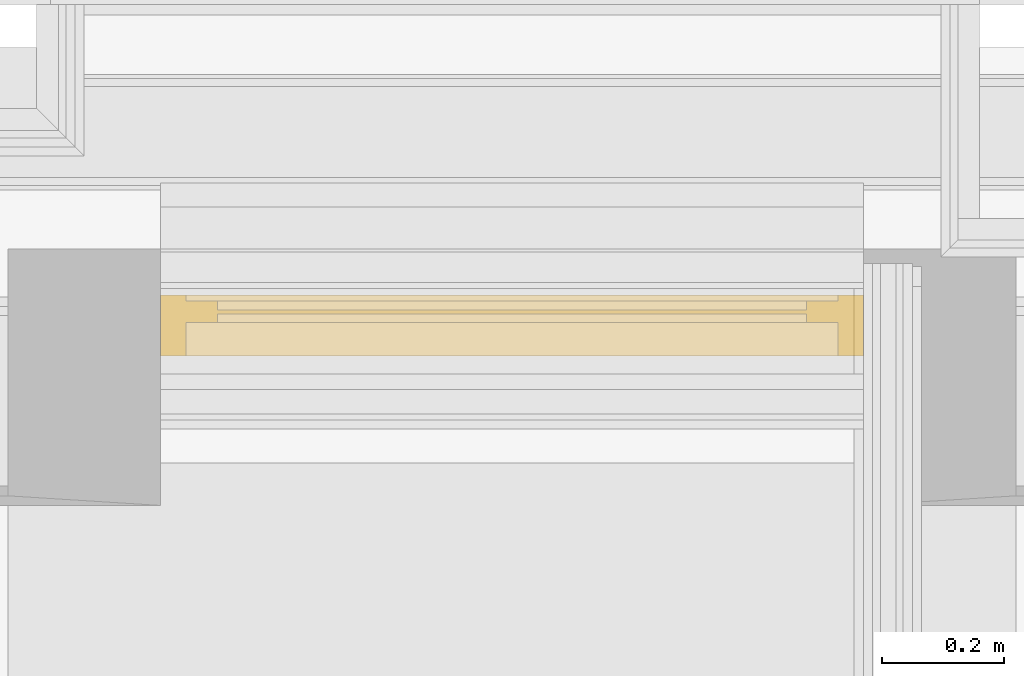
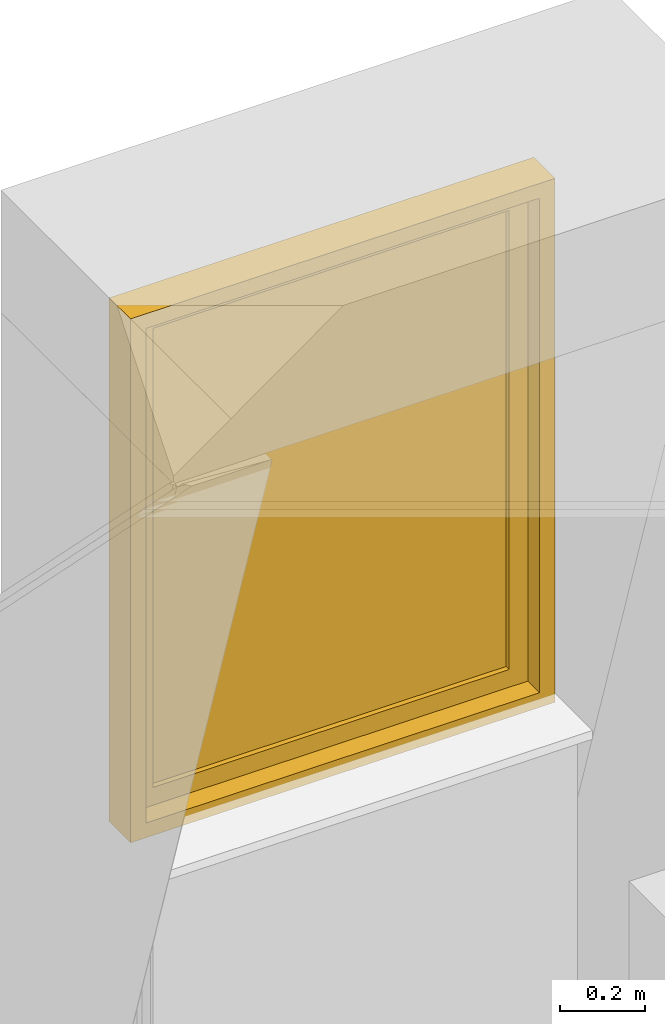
# One storey, part 134 of 169: 1 window.
"""IFC2X3 building model written with IfcOpenShell, lengths in metres."""

import ifcopenshell
import ifcopenshell.guid

model = None  # the IFC model being written
_history = None  # IfcOwnerHistory: only IFC2X3 demands one
_inside = {}  # id of a spatial element -> (the spatial element, [elements in it])
_under = {}  # id of a project, library or spatial element -> (it, [spatial elements below it])
_declared = {}  # id of a project -> (the project, [libraries it declares])
_typed = {}  # id of a type object -> (the type object, [elements of that type])
_made_of = {}  # id of a material, layer set ... -> (it, [elements and type objects made of it])


def new_model(schema):
    """Start an empty IFC model of exactly this schema.

    Asked for "IFC4X3", IfcOpenShell would pick the latest addendum, in which some entities
    have other attributes; the version numbers below select the first issue.
    IFC2X3 requires an IfcOwnerHistory on every rooted entity: one is made here for all.
    """
    global model, _history
    if schema == "IFC4X3":
        model = ifcopenshell.file(schema_version=(4, 3, 0, 0))
    else:
        model = ifcopenshell.file(schema=schema)
    _inside.clear()
    _under.clear()
    _declared.clear()
    _typed.clear()
    _made_of.clear()
    _history = None
    if model.schema == "IFC2X3":
        org = make("IfcOrganization", Name="unknown")
        user = make(
            "IfcPersonAndOrganization",
            ThePerson=make("IfcPerson", FamilyName="unknown"),
            TheOrganization=org,
        )
        app = make(
            "IfcApplication",
            ApplicationDeveloper=org,
            Version="unknown",
            ApplicationFullName="unknown",
            ApplicationIdentifier="unknown",
        )
        _history = make(
            "IfcOwnerHistory",
            OwningUser=user,
            OwningApplication=app,
            ChangeAction="ADDED",
            CreationDate=0,
        )
    return model


def make(cls, **values):
    """One entity of the class cls with the attributes given. An attribute that is None is left unset."""
    return model.create_entity(
        cls, **{name: value for name, value in values.items() if value is not None}
    )


def entity(cls, *values):
    """Any entity or typed value of the class cls, its attributes in the order of the schema. None: left unset."""
    e = model.create_entity(cls)
    for i, value in enumerate(values):
        if value is not None:
            e[i] = value
    return e


def rooted(cls, **values):
    """An entity with a GlobalId (a new one), such as an element, a storey or a relation."""
    return make(cls, GlobalId=ifcopenshell.guid.new(), OwnerHistory=_history, **values)


def si_unit(unit_type, name, prefix=None):
    """IfcSIUnit, for example si_unit("LENGTHUNIT", "METRE", prefix="MILLI")."""
    return make("IfcSIUnit", UnitType=unit_type, Prefix=prefix, Name=name)


def converted_unit(unit_type, name, factor, base, dimensions=None, offset=None):
    """IfcConversionBasedUnit, such as the inch: factor (a typed value) times the base unit."""
    return make(
        "IfcConversionBasedUnit"
        if offset is None
        else "IfcConversionBasedUnitWithOffset",
        ConversionOffset=offset,
        Dimensions=None
        if dimensions is None
        else entity("IfcDimensionalExponents", *dimensions),
        UnitType=unit_type,
        Name=name,
        ConversionFactor=make(
            "IfcMeasureWithUnit", ValueComponent=factor, UnitComponent=base
        ),
    )


def derived_unit(unit_type, elements):
    """IfcDerivedUnit: a product of units, each with its exponent."""
    return make(
        "IfcDerivedUnit",
        Elements=[
            make("IfcDerivedUnitElement", Unit=unit, Exponent=power)
            for unit, power in elements
        ],
        UnitType=unit_type,
    )


def money_unit(currency):
    """IfcMonetaryUnit."""
    return make("IfcMonetaryUnit", Currency=currency)


def assignment(units):
    """IfcUnitAssignment: the units of a project."""
    return None if units is None else make("IfcUnitAssignment", Units=units)


def point(xyz):
    """IfcCartesianPoint."""
    return None if xyz is None else make("IfcCartesianPoint", Coordinates=xyz)


def direction(xyz):
    """IfcDirection."""
    return None if xyz is None else make("IfcDirection", DirectionRatios=xyz)


def frame(location, z_axis=None, x_axis=None):
    """IfcAxis2Placement3D, a coordinate frame: its origin and axes. An axis left out is left unset."""
    return make(
        "IfcAxis2Placement3D",
        Location=point(location),
        Axis=direction(z_axis),
        RefDirection=direction(x_axis),
    )


def origin_with_axes():
    """The frame at (0, 0, 0) with the z axis (0, 0, 1) and the x axis (1, 0, 0) written out."""
    return frame((0.0, 0.0, 0.0), z_axis=(0.0, 0.0, 1.0), x_axis=(1.0, 0.0, 0.0))


def place(relative_to, where):
    """IfcLocalPlacement: puts the frame where relative to a parent placement (None: the world)."""
    return make(
        "IfcLocalPlacement", PlacementRelTo=relative_to, RelativePlacement=where
    )


def context(
    kind, dimensions, precision=None, world=None, true_north=None, identifier=None
):
    """IfcGeometricRepresentationContext, for example the 3D "Model" context."""
    return make(
        "IfcGeometricRepresentationContext",
        ContextIdentifier=identifier,
        ContextType=kind,
        CoordinateSpaceDimension=dimensions,
        Precision=precision,
        WorldCoordinateSystem=world,
        TrueNorth=true_north,
    )


def subcontext(parent, identifier, kind, view, scale=None):
    """IfcGeometricRepresentationSubContext, for example "Body" below "Model"."""
    return make(
        "IfcGeometricRepresentationSubContext",
        ContextIdentifier=identifier,
        ContextType=kind,
        ParentContext=parent,
        TargetScale=scale,
        TargetView=view,
    )


def project(units=None, contexts=None):
    """IfcProject with its units and contexts."""
    return rooted(
        "IfcProject",
        Name="project",
        RepresentationContexts=contexts,
        UnitsInContext=assignment(units),
    )


def spatial(cls, under=None, at=None, **own):
    """A site, building, storey or space (cls), placed at a placement, below another one or the project."""
    s = rooted(cls, ObjectPlacement=at, **own)
    if under is not None:
        _under.setdefault(under.id(), (under, []))[1].append(s)
    return s


def faces_of(points, faces, orient=None, outer=None):
    """IfcFace entities. A face is a list of loops; a loop is a list of indices into points, from 0.

    orient and outer hold one flag for each loop. By default every Orientation is true, the
    first loop of a face is its IfcFaceOuterBound and the others are IfcFaceBound.
    """
    made = []
    for i, loops in enumerate(faces):
        bounds = []
        for j, loop in enumerate(loops):
            is_outer = j == 0 if outer is None else outer[i][j]
            bounds.append(
                make(
                    "IfcFaceOuterBound" if is_outer else "IfcFaceBound",
                    Bound=make("IfcPolyLoop", Polygon=[points[k] for k in loop]),
                    Orientation=True if orient is None else orient[i][j],
                )
            )
        made.append(make("IfcFace", Bounds=bounds))
    return made


def faceted_brep(points, faces, orient=None, outer=None, voids=None):
    """IfcFacetedBrep: a solid bounded by flat faces; with voids (closed shells), ...WithVoids."""
    shared = [point(p) for p in points]
    hull = make("IfcClosedShell", CfsFaces=faces_of(shared, faces, orient, outer))
    if voids is None:
        return make("IfcFacetedBrep", Outer=hull)
    return make(
        "IfcFacetedBrepWithVoids",
        Outer=hull,
        Voids=[
            make(cls, CfsFaces=faces_of(shared, fs, o, b)) for cls, fs, o, b in voids
        ],
    )


def shape(context_of_items, identifier, shape_type, items):
    """IfcShapeRepresentation: the items that make up one representation, for example the "Body"."""
    return make(
        "IfcShapeRepresentation",
        ContextOfItems=context_of_items,
        RepresentationIdentifier=identifier,
        RepresentationType=shape_type,
        Items=items,
    )


def material(Name=None, Category=None):
    """IfcMaterial."""
    return make("IfcMaterial", Name=Name, Category=Category)


def made_of(thing, what):
    """Note that an element or type object is made of a material, layer set ...; save() writes the relation."""
    if what is not None:
        _made_of.setdefault(what.id(), (what, []))[1].append(thing)
    return thing


def type_object(cls, material=None, **own):
    """A type object (cls), such as IfcWallType, which elements share."""
    return made_of(rooted(cls, **own), material)


def element(
    cls,
    number,
    at=None,
    inside=None,
    cuts=None,
    type_object=None,
    material=None,
    context=None,
    identifier="Body",
    shape_type=None,
    held_by="IfcProductDefinitionShape",
    body=None,
    shapes=None,
    **own,
):
    """One element of the class cls, such as IfcWall. Its Tag is "e" and its number.

    at: its placement. inside: the storey or other place that contains it. cuts: it is an
    opening in that element (IfcRelVoidsElement). A single representation is given by context,
    identifier, shape_type and body (its items); several are given by shapes. held_by: the class
    of the entity that holds the representations. save() writes the other relations.
    """
    e = rooted(cls, Tag="e%d" % number, ObjectPlacement=at, **own)
    if body is not None:
        shapes = [shape(context, identifier, shape_type, body)]
    if shapes is not None:
        e.Representation = make(held_by, Representations=shapes)
    if inside is not None:
        _inside.setdefault(inside.id(), (inside, []))[1].append(e)
    if cuts is not None:
        rooted(
            "IfcRelVoidsElement", RelatingBuildingElement=cuts, RelatedOpeningElement=e
        )
    if type_object is not None:
        _typed.setdefault(type_object.id(), (type_object, []))[1].append(e)
    return made_of(e, material)


def aggregate(whole, parts):
    """IfcRelAggregates: a whole, such as a stair, and the parts it consists of."""
    return rooted("IfcRelAggregates", RelatingObject=whole, RelatedObjects=parts)


def save(model, path):
    """Write the relations noted so far, then the file.

    IfcRelAggregates (storeys below a building ...), IfcRelContainedInSpatialStructure (elements
    in a storey), IfcRelDefinesByType, IfcRelAssociatesMaterial and IfcRelDeclares: one each for
    every whole, place, type object, material and project.
    """
    for whole, parts in _under.values():
        aggregate(whole, parts)
    for where, things in _inside.values():
        rooted(
            "IfcRelContainedInSpatialStructure",
            RelatedElements=things,
            RelatingStructure=where,
        )
    for kind, things in _typed.values():
        rooted("IfcRelDefinesByType", RelatedObjects=things, RelatingType=kind)
    for what, things in _made_of.values():
        rooted("IfcRelAssociatesMaterial", RelatedObjects=things, RelatingMaterial=what)
    for by, libraries in _declared.values():
        rooted("IfcRelDeclares", RelatingContext=by, RelatedDefinitions=libraries)
    model.write(path)


model = new_model("IFC2X3")

# Units and contexts
model_context = context("Model", 3, precision=1e-05, world=origin_with_axes(), true_north=direction((0.0, 1.0)))
body_context = subcontext(model_context, "Body", "Model", "MODEL_VIEW", scale=1.0)
ifc_project = project(units=[si_unit("LENGTHUNIT", "METRE"), si_unit("AREAUNIT", "SQUARE_METRE"), si_unit("VOLUMEUNIT", "CUBIC_METRE"), si_unit("ABSORBEDDOSEUNIT", "GRAY"), si_unit("AMOUNTOFSUBSTANCEUNIT", "MOLE"), si_unit("DOSEEQUIVALENTUNIT", "SIEVERT"), si_unit("ELECTRICCAPACITANCEUNIT", "FARAD"), si_unit("ELECTRICCHARGEUNIT", "COULOMB"), si_unit("ELECTRICCONDUCTANCEUNIT", "SIEMENS"), si_unit("ELECTRICCURRENTUNIT", "AMPERE"), si_unit("ELECTRICRESISTANCEUNIT", "OHM"), si_unit("ELECTRICVOLTAGEUNIT", "VOLT"), si_unit("ENERGYUNIT", "JOULE"), si_unit("FORCEUNIT", "NEWTON"), si_unit("FREQUENCYUNIT", "HERTZ"), si_unit("ILLUMINANCEUNIT", "LUX"), si_unit("INDUCTANCEUNIT", "HENRY"), si_unit("LUMINOUSFLUXUNIT", "LUMEN"), si_unit("LUMINOUSINTENSITYUNIT", "CANDELA"), si_unit("MAGNETICFLUXDENSITYUNIT", "TESLA"), si_unit("MAGNETICFLUXUNIT", "WEBER"), si_unit("MASSUNIT", "GRAM"), converted_unit("PLANEANGLEUNIT", "degree", entity("IfcReal", 0.0174532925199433), si_unit("PLANEANGLEUNIT", "RADIAN"), dimensions=[0, 0, 0, 0, 0, 0, 0]), si_unit("POWERUNIT", "WATT"), si_unit("PRESSUREUNIT", "PASCAL"), si_unit("RADIOACTIVITYUNIT", "BECQUEREL"), si_unit("SOLIDANGLEUNIT", "STERADIAN"), si_unit("THERMODYNAMICTEMPERATUREUNIT", "KELVIN"), si_unit("TIMEUNIT", "SECOND"), derived_unit("ACCELERATIONUNIT", [(si_unit("LENGTHUNIT", "METRE"), 1), (si_unit("TIMEUNIT", "SECOND"), -2)]), derived_unit("ANGULARVELOCITYUNIT", [(converted_unit("PLANEANGLEUNIT", "degree", entity("IfcReal", 0.0174532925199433), si_unit("PLANEANGLEUNIT", "RADIAN"), dimensions=[0, 0, 0, 0, 0, 0, 0]), 1), (si_unit("TIMEUNIT", "SECOND"), -1)]), derived_unit("CURVATUREUNIT", [(converted_unit("PLANEANGLEUNIT", "degree", entity("IfcReal", 0.0174532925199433), si_unit("PLANEANGLEUNIT", "RADIAN"), dimensions=[0, 0, 0, 0, 0, 0, 0]), 1), (si_unit("LENGTHUNIT", "METRE"), -1)]), derived_unit("DYNAMICVISCOSITYUNIT", [(si_unit("PRESSUREUNIT", "PASCAL"), 1), (si_unit("TIMEUNIT", "SECOND"), 1)]), derived_unit("HEATFLUXDENSITYUNIT", [(si_unit("POWERUNIT", "WATT"), 1), (si_unit("LENGTHUNIT", "METRE"), -2)]), derived_unit("HEATINGVALUEUNIT", [(si_unit("ENERGYUNIT", "JOULE"), 1), (si_unit("MASSUNIT", "GRAM"), -1)]), derived_unit("INTEGERCOUNTRATEUNIT", [(si_unit("TIMEUNIT", "SECOND"), -1)]), derived_unit("IONCONCENTRATIONUNIT", [(si_unit("MASSUNIT", "GRAM"), 1), (si_unit("VOLUMEUNIT", "CUBIC_METRE"), -1)]), derived_unit("ISOTHERMALMOISTURECAPACITYUNIT", [(si_unit("VOLUMEUNIT", "CUBIC_METRE"), 1), (si_unit("MASSUNIT", "GRAM"), -1)]), derived_unit("KINEMATICVISCOSITYUNIT", [(si_unit("AREAUNIT", "SQUARE_METRE"), 1), (si_unit("TIMEUNIT", "SECOND"), -1)]), derived_unit("LINEARFORCEUNIT", [(si_unit("FORCEUNIT", "NEWTON"), 1), (si_unit("LENGTHUNIT", "METRE"), -1)]), derived_unit("LINEARMOMENTUNIT", [(si_unit("FORCEUNIT", "NEWTON"), 1), (si_unit("LENGTHUNIT", "METRE"), -1)]), derived_unit("LINEARSTIFFNESSUNIT", [(si_unit("FORCEUNIT", "NEWTON"), 1), (si_unit("LENGTHUNIT", "METRE"), -1)]), derived_unit("LINEARVELOCITYUNIT", [(si_unit("LENGTHUNIT", "METRE"), 1), (si_unit("TIMEUNIT", "SECOND"), -1)]), derived_unit("LUMINOUSINTENSITYDISTRIBUTIONUNIT", [(si_unit("LUMINOUSINTENSITYUNIT", "CANDELA"), 1), (si_unit("LUMINOUSFLUXUNIT", "LUMEN"), -1)]), derived_unit("MASSDENSITYUNIT", [(si_unit("MASSUNIT", "GRAM"), 1), (si_unit("VOLUMEUNIT", "CUBIC_METRE"), -1)]), derived_unit("MASSFLOWRATEUNIT", [(si_unit("MASSUNIT", "GRAM"), 1), (si_unit("TIMEUNIT", "SECOND"), -1)]), derived_unit("MASSPERLENGTHUNIT", [(si_unit("MASSUNIT", "GRAM"), 1), (si_unit("LENGTHUNIT", "METRE"), -1)]), derived_unit("MODULUSOFELASTICITYUNIT", [(si_unit("FORCEUNIT", "NEWTON"), 1), (si_unit("AREAUNIT", "SQUARE_METRE"), -1)]), derived_unit("MODULUSOFLINEARSUBGRADEREACTIONUNIT", [(si_unit("FORCEUNIT", "NEWTON"), 1), (si_unit("LENGTHUNIT", "METRE"), -2)]), derived_unit("MODULUSOFROTATIONALSUBGRADEREACTIONUNIT", [(si_unit("FORCEUNIT", "NEWTON"), 1), (si_unit("LENGTHUNIT", "METRE"), 1)]), derived_unit("MODULUSOFSUBGRADEREACTIONUNIT", [(si_unit("FORCEUNIT", "NEWTON"), 1), (si_unit("VOLUMEUNIT", "CUBIC_METRE"), -1)]), derived_unit("MOISTUREDIFFUSIVITYUNIT", [(si_unit("VOLUMEUNIT", "CUBIC_METRE"), 1), (si_unit("TIMEUNIT", "SECOND"), -1)]), derived_unit("MOLECULARWEIGHTUNIT", [(si_unit("MASSUNIT", "GRAM"), 1), (si_unit("AMOUNTOFSUBSTANCEUNIT", "MOLE"), -1)]), derived_unit("PLANARFORCEUNIT", [(si_unit("FORCEUNIT", "NEWTON"), 1), (si_unit("LENGTHUNIT", "METRE"), -2)]), derived_unit("ROTATIONALFREQUENCYUNIT", [(si_unit("TIMEUNIT", "SECOND"), -1)]), derived_unit("ROTATIONALMASSUNIT", [(si_unit("MASSUNIT", "GRAM"), 1), (si_unit("LENGTHUNIT", "METRE"), 2)]), derived_unit("ROTATIONALSTIFFNESSUNIT", [(si_unit("FORCEUNIT", "NEWTON"), 1), (si_unit("LENGTHUNIT", "METRE"), 1), (converted_unit("PLANEANGLEUNIT", "degree", entity("IfcReal", 0.0174532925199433), si_unit("PLANEANGLEUNIT", "RADIAN"), dimensions=[0, 0, 0, 0, 0, 0, 0]), -1)]), derived_unit("SECTIONAREAINTEGRALUNIT", [(si_unit("LENGTHUNIT", "METRE"), 5)]), derived_unit("SECTIONMODULUSUNIT", [(si_unit("LENGTHUNIT", "METRE"), 3)]), derived_unit("SHEARMODULUSUNIT", [(si_unit("FORCEUNIT", "NEWTON"), 1), (si_unit("AREAUNIT", "SQUARE_METRE"), -1)]), derived_unit("SOUNDPOWERUNIT", [(si_unit("ENERGYUNIT", "JOULE"), 1), (si_unit("TIMEUNIT", "SECOND"), -1)]), derived_unit("SPECIFICHEATCAPACITYUNIT", [(si_unit("FORCEUNIT", "NEWTON"), 1), (si_unit("MASSUNIT", "GRAM"), -1), (si_unit("THERMODYNAMICTEMPERATUREUNIT", "KELVIN"), -1)]), derived_unit("TEMPERATUREGRADIENTUNIT", [(si_unit("THERMODYNAMICTEMPERATUREUNIT", "KELVIN"), 1), (si_unit("LENGTHUNIT", "METRE"), -1)]), derived_unit("THERMALADMITTANCEUNIT", [(si_unit("POWERUNIT", "WATT"), 1), (si_unit("AREAUNIT", "SQUARE_METRE"), -1), (si_unit("THERMODYNAMICTEMPERATUREUNIT", "KELVIN"), -1)]), derived_unit("THERMALCONDUCTANCEUNIT", [(si_unit("POWERUNIT", "WATT"), 1), (si_unit("LENGTHUNIT", "METRE"), -1), (si_unit("THERMODYNAMICTEMPERATUREUNIT", "KELVIN"), -1)]), derived_unit("THERMALEXPANSIONCOEFFICIENTUNIT", [(si_unit("THERMODYNAMICTEMPERATUREUNIT", "KELVIN"), -1)]), derived_unit("THERMALRESISTANCEUNIT", [(si_unit("AREAUNIT", "SQUARE_METRE"), 1), (si_unit("POWERUNIT", "WATT"), -1)]), derived_unit("THERMALTRANSMITTANCEUNIT", [(si_unit("POWERUNIT", "WATT"), 1), (si_unit("AREAUNIT", "SQUARE_METRE"), -1), (si_unit("THERMODYNAMICTEMPERATUREUNIT", "KELVIN"), -1)]), derived_unit("TORQUEUNIT", [(si_unit("FORCEUNIT", "NEWTON"), 1), (si_unit("LENGTHUNIT", "METRE"), 1)]), derived_unit("VAPORPERMEABILITYUNIT", [(si_unit("MASSUNIT", "GRAM"), 1), (si_unit("TIMEUNIT", "SECOND"), -1)]), derived_unit("VOLUMETRICFLOWRATEUNIT", [(si_unit("VOLUMEUNIT", "CUBIC_METRE"), 1), (si_unit("TIMEUNIT", "SECOND"), -1)]), derived_unit("WARPINGCONSTANTUNIT", [(si_unit("LENGTHUNIT", "METRE"), 6)]), derived_unit("WARPINGMOMENTUNIT", [(si_unit("FORCEUNIT", "NEWTON"), 1), (si_unit("LENGTHUNIT", "METRE"), 2)]), money_unit("GBP")], contexts=[model_context])

# Site, building, storey, space
site_placement = place(None, origin_with_axes())
site = spatial("IfcSite", under=ifc_project, at=site_placement, Name="Site", CompositionType="ELEMENT")
building_placement = place(site_placement, origin_with_axes())
building = spatial("IfcBuilding", under=site, at=building_placement, Name="Building01", CompositionType="ELEMENT")
storey_placement = place(building_placement, frame((0.0, 0.0, 5.15), z_axis=(0.0, 0.0, 1.0), x_axis=(1.0, 0.0, 0.0)))
storey = spatial("IfcBuildingStorey", under=building, at=storey_placement, Name="1F", CompositionType="ELEMENT", Elevation=5.15)
space_placement = place(storey_placement, frame((17.359976, 10.179939, 9.86), z_axis=(0.0, 0.0, 1.0), x_axis=(1.261e-05, 1.0, 0.0)))
space = spatial("IfcSpace", under=storey, at=space_placement, Name="1", CompositionType="ELEMENT", InteriorOrExteriorSpace="NOTDEFINED")

# Window
ifc_material = material(Name="A_BSUK_Windows")
window_style = type_object("IfcWindowStyle", Name="A-Awning", ConstructionType="NOTDEFINED", OperationType="USERDEFINED", ParameterTakesPrecedence=False, Sizeable=False)
window_placement = place(storey_placement, frame((16.210024, 14.350061, 10.83), z_axis=(0.0, 0.0, 1.0), x_axis=(-1.0, 0.0, 0.0)))
element("IfcWindow", 1, at=window_placement, inside=space, type_object=window_style, material=ifc_material, Name="4.20", ObjectType="A-Awning", OverallHeight=1.50000000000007, OverallWidth=1.15000000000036, context=body_context, shape_type="Brep", body=[
    faceted_brep([(-1.108, 0.0254, 0.042), (-0.042, 0.0254, 0.042), (-0.042, 0.1254, 0.042), (-1.108, 0.1254, 0.042), (-1.108, 0.0254, 1.458), (-1.108, 0.1254, 1.458), (-0.042, 0.0254, 1.458), (-0.042, 0.1254, 1.458), (0.0, 0.0254, 0.0), (0.0, 0.0254, 1.5), (-1.15, 0.0254, 1.5), (-1.15, 0.0254, 0.0), (0.0, 0.1254, 1.5), (-1.15, 0.1254, 1.5), (-1.15, 0.1254, 0.0), (0.0, 0.1254, 0.0)], [[[0, 1, 2, 3]], [[4, 0, 3, 5]], [[6, 4, 5, 7]], [[8, 9, 10, 11], [4, 6, 1, 0]], [[1, 6, 7, 2]], [[12, 13, 10, 9]], [[14, 15, 8, 11]], [[13, 14, 11, 10]], [[13, 12, 15, 14], [2, 7, 5, 3]], [[15, 12, 9, 8]]]),
    faceted_brep([(-1.0572, 0.0354, 0.0928), (-0.0928, 0.0354, 0.0928), (-0.0928, 0.0704, 0.0928), (-1.0572, 0.0704, 0.0928), (-1.0572, 0.0354, 1.4072), (-1.0572, 0.0704, 1.4072), (-0.0928, 0.0354, 1.4072), (-0.0928, 0.0704, 1.4072), (-1.108, 0.0704, 1.458), (-0.042, 0.0704, 1.458), (-0.042, 0.0704, 0.042), (-1.108, 0.0704, 0.042), (-1.108, 0.0354, 1.458), (-0.042, 0.0354, 1.458), (-0.042, 0.0354, 0.042), (-1.108, 0.0354, 0.042)], [[[0, 1, 2, 3]], [[4, 0, 3, 5]], [[6, 4, 5, 7]], [[8, 9, 10, 11], [2, 7, 5, 3]], [[9, 8, 12, 13]], [[10, 9, 13, 14]], [[11, 10, 14, 15]], [[8, 11, 15, 12]], [[14, 13, 12, 15], [4, 6, 1, 0]], [[1, 6, 7, 2]]]),
    faceted_brep([(-0.0928, 0.049725, 0.0928), (-0.0928, 0.056075, 0.0928), (-0.0928, 0.056075, 1.4072), (-0.0928, 0.049725, 1.4072), (-1.0572, 0.049725, 1.4072), (-1.0572, 0.056075, 1.4072), (-1.0572, 0.056075, 0.0928), (-1.0572, 0.049725, 0.0928)], [[[0, 1, 2, 3]], [[4, 5, 6, 7]], [[3, 2, 5, 4]], [[3, 4, 7, 0]], [[7, 6, 1, 0]], [[1, 6, 5, 2]]]),
])

save(model, "model.ifc")
